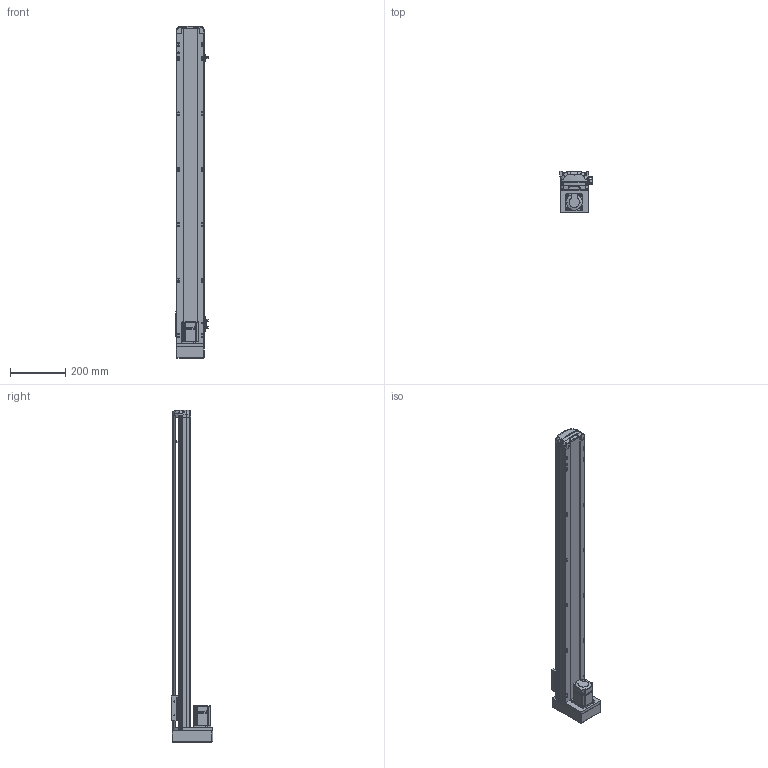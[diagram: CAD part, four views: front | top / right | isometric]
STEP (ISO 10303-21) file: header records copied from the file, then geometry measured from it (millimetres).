
FILE_DESCRIPTION (( 'STEP AP214' ), '1' );
FILE_NAME ('RTH10-XX-950-M-M20-C4.STEP', '2025-10-25T04:53:06', ( 'Microsoft' ), ( 'Microsoft' ), 'SwSTEP 2.0', 'SolidWorks 2018', '' );
FILE_SCHEMA (( 'AUTOMOTIVE_DESIGN' ));
Length unit declared in the file: millimetre
Products named in the file (10): N_RTH13-L-012覜茼え俋离^RTH10-XX-XX-M-M20-C4; N_OMRON EE-SX672 传感器^RTH10-XX-XX-M-M20-C4; N_RTH12-GY-001P^RTH10-XX-XX-M-M20-C4; N_200W-1^RTH10-XX-XX-M-M20-C4; RTH10-XX-950-M-M20-C4; N_RTH12-GY-004-賑釱^RTH10-XX-XX-M-M20-C4; N_RTH12-M-018-裔赽^RTH10-XX-XX-M-M20-C4; N_RTH12-M-011P-臏倰第菁釱^RTH10-XX-XX-M-M20-C4; N_RTH12-M-007P-奻裔^RTH10-XX-XX-M-M20-C4; N_RTH12-M-008-萇儂啣^RTH10-XX-XX-M-M20-C4
Assembly tree (11 placements, depth 2):
  RTH10-XX-950-M-M20-C4
    N_RTH12-M-011P-臏倰第菁釱^RTH10-XX-XX-M-M20-C4
    N_RTH13-L-012覜茼え俋离^RTH10-XX-XX-M-M20-C4
    N_OMRON EE-SX672 传感器^RTH10-XX-XX-M-M20-C4  x3
    N_200W-1^RTH10-XX-XX-M-M20-C4
    N_RTH12-M-007P-奻裔^RTH10-XX-XX-M-M20-C4
    N_RTH12-M-008-萇儂啣^RTH10-XX-XX-M-M20-C4
    N_RTH12-M-018-裔赽^RTH10-XX-XX-M-M20-C4
    N_RTH12-GY-004-賑釱^RTH10-XX-XX-M-M20-C4
    N_RTH12-GY-001P^RTH10-XX-XX-M-M20-C4
Bounding box: 116.5 x 149 x 1197.31 mm (x, y, z)
Volume: 5357361.5 mm3; surface area: 792817.9 mm2
Topology: 10 solids, 12 shells, 2029 faces, 5680 edges, 3731 vertices
Faces by surface type: plane 999, cylinder 523, bspline 472, cone 29, sphere 4, torus 2
Entity records: 61574 total; most frequent: CARTESIAN_POINT 23875, ORIENTED_EDGE 8432, DIRECTION 6590, EDGE_CURVE 4222, VERTEX_POINT 2775, LINE 2250, VECTOR 2250, AXIS2_PLACEMENT_3D 2170
